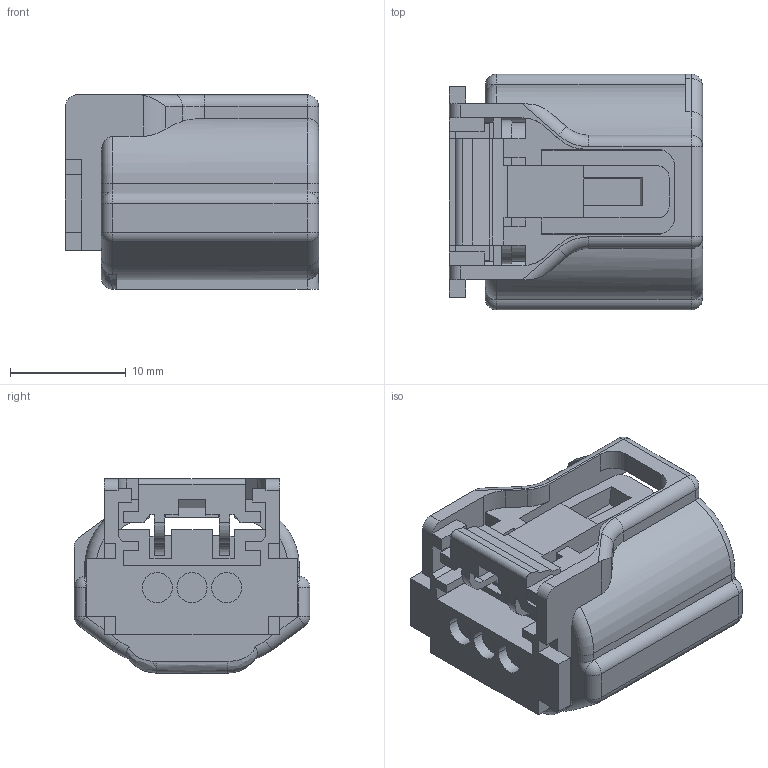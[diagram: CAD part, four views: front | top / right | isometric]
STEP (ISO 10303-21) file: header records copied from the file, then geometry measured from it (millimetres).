
FILE_DESCRIPTION(('CATIA V5 STEP Exchange'),'2;1');
FILE_NAME('N:\C-DAM_MyDesk\ENV\900093\6189-1129.stp','2013-07-18T05:23:02+00:00',('none'),('none'),'CATIA Version 5 Release 20 SP 4 (IN-10)','CATIA V5 STEP AP203','none');
FILE_SCHEMA(('CONFIG_CONTROL_DESIGN'));
Length unit declared in the file: millimetre
Products named in the file (1): 6189-1129
Bounding box: 21.9 x 20.4 x 16.8 mm (x, y, z)
Volume: 3699.9 mm3; surface area: 3838.7 mm2
Topology: 1 solids, 1 shells, 295 faces, 830 edges, 517 vertices
Faces by surface type: plane 186, cylinder 79, torus 17, sphere 10, bspline 3
Entity records: 9221 total; most frequent: CARTESIAN_POINT 2007, ORIENTED_EDGE 1634, DIRECTION 1237, EDGE_CURVE 817, VECTOR 590, LINE 590, VERTEX_POINT 517, AXIS2_PLACEMENT_3D 416
